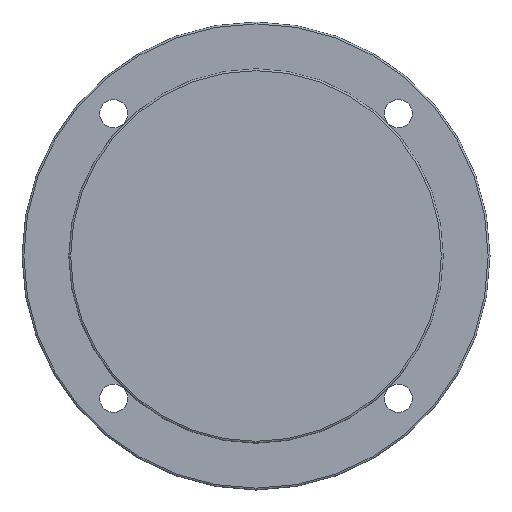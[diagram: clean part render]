
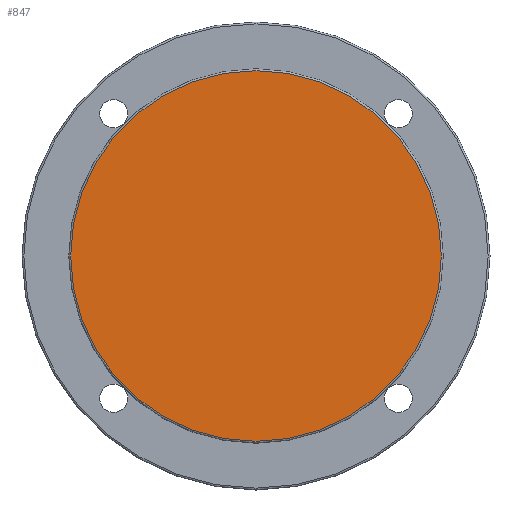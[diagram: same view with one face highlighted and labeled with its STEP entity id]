
A CAD part, left-side view. The second image highlights one B-rep face of the part: STEP entity #847.
In plain terms, the highlighted planar face has unit normal (-1, 0, 0).
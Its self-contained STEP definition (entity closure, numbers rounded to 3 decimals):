
#824=CARTESIAN_POINT('',(0.,99.0,0.0));
#825=VERTEX_POINT('',#824);
#826=CARTESIAN_POINT('',(0.,0.0,0.0));
#827=DIRECTION('',(1.0,0.0,0.0));
#828=DIRECTION('',(0.0,-1.0,0.0));
#829=AXIS2_PLACEMENT_3D('',#826,#827,#828);
#830=CIRCLE('',#829,99.0);
#831=EDGE_CURVE('',#825,#825,#830,.T.);
#839=CARTESIAN_POINT('',(0.,76.13,0.));
#840=DIRECTION('',(-1.0,0.0,0.0));
#841=DIRECTION('',(0.0,0.0,1.0));
#842=AXIS2_PLACEMENT_3D('',#839,#840,#841);
#843=PLANE('',#842);
#844=ORIENTED_EDGE('',*,*,#831,.F.);
#845=EDGE_LOOP('',(#844));
#846=FACE_OUTER_BOUND('',#845,.T.);
#847=ADVANCED_FACE('',(#846),#843,.T.);
